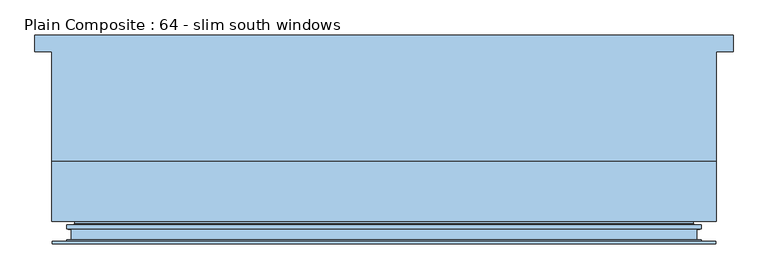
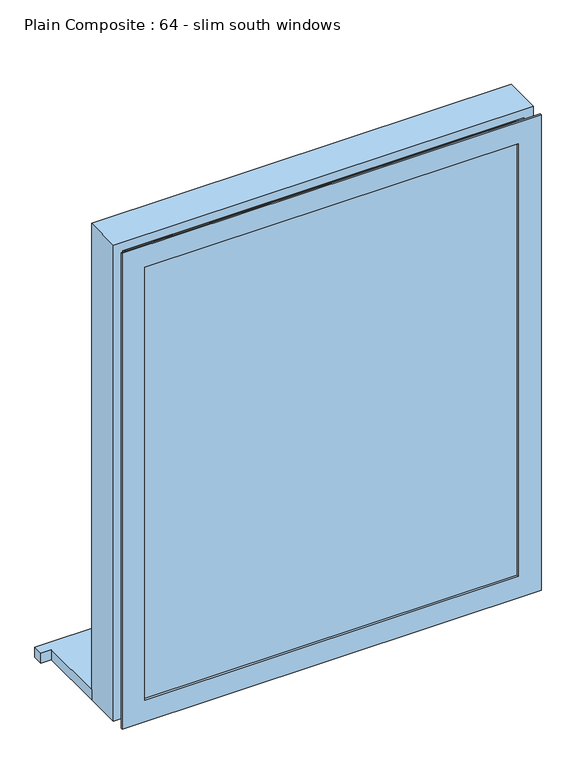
"""IFC4 building model written with IfcOpenShell, lengths in millimetres: window geometry, Plain Composite : 64 - slim south windows."""

from ifc_helpers import new_model, si_unit, frame, origin, place, context, project, spatial, polyline, outline, extrude, faceted_brep, source, transform, mapped, element, save


def plain_composite_64_slim_south_windows_6c7d1eea(model_context):
    return source(origin(), model_context, "Body", "SolidModel", [
        extrude(outline(polyline([(-815.0, 161.5434322), (235.0, 161.5434322), (235.0, 136.5434322), (210.0, 136.5434322), (210.0, -29.4565678), (-790.0, -29.4565678), (-790.0, 136.5434322), (-815.0, 136.5434322), (-815.0, 161.5434322)])), frame((0.0, 0.0, 910.0), z_axis=(0.0, 0.0, 1.0), x_axis=(1.0, 0.0, 0.0)), (0.0, 0.0, 1.0), 25.0),
        extrude(outline(polyline([(167.0, -123.4565678), (167.0, -147.4565678), (-747.0, -147.4565678), (-747.0, -123.4565678), (167.0, -123.4565678)])), frame((0.0, 0.0, 953.0), z_axis=(0.0, 0.0, 1.0), x_axis=(1.0, 0.0, 0.0)), (0.0, 0.0, 1.0), 1114.0),
        faceted_brep([(-735.0, -147.4565678, 965.0), (-735.0, -147.4565678, 2055.0), (-735.0, -153.4565678, 2055.0), (-735.0, -153.4565678, 965.0), (-747.0, -123.4565678, 953.0), (-747.0, -123.4565678, 2067.0), (-747.0, -147.4565678, 2067.0), (-747.0, -147.4565678, 953.0), (-735.0, -100.4565678, 965.0), (-735.0, -100.4565678, 2055.0), (-735.0, -123.4565678, 2055.0), (-735.0, -123.4565678, 965.0), (-757.3761005, -103.766907, 942.6238995), (-757.3761005, -103.766907, 2077.3761005), (-757.3761005, -100.4565678, 2077.3761005), (-757.3761005, -100.4565678, 942.6238995), (-755.3055676, -104.9623297, 944.6944324), (-755.3055676, -104.9623297, 2075.3055676), (-755.3055676, -122.3525929, 944.6944324), (-755.3055676, -122.3525929, 2075.3055676), (-760.0, -127.0470253, 940.0), (-760.0, -127.0470253, 2080.0), (-765.0, -125.0470253, 935.0), (-765.0, -125.0470253, 2085.0), (-765.0, -127.0470253, 2085.0), (-765.0, -127.0470253, 935.0), (-767.0, -131.0470253, 933.0), (-767.0, -131.0470253, 2087.0), (-767.0, -125.0470253, 2087.0), (-767.0, -125.0470253, 933.0), (-765.0, -129.0470253, 935.0), (-765.0, -129.0470253, 2085.0), (-765.0, -131.0470253, 2085.0), (-765.0, -131.0470253, 935.0), (-760.0, -149.4565678, 940.0), (-760.0, -149.4565678, 2080.0), (-760.0, -129.0470253, 2080.0), (-760.0, -129.0470253, 940.0), (-765.0, -147.4565678, 935.0), (-765.0, -147.4565678, 2085.0), (-765.0, -149.4565678, 2085.0), (-765.0, -149.4565678, 935.0), (-767.0, -151.4565678, 933.0), (-767.0, -151.4565678, 2087.0), (-767.0, -147.4565678, 2087.0), (-767.0, -147.4565678, 933.0), (-787.0, -149.4565678, 913.0), (-787.0, -149.4565678, 2107.0), (-787.0, -151.4565678, 2107.0), (-787.0, -151.4565678, 913.0), (-789.0, -153.4565678, 911.0), (-789.0, -153.4565678, 2109.0), (-789.0, -149.4565678, 2109.0), (-789.0, -149.4565678, 911.0), (155.0, -147.4565678, 2055.0), (155.0, -153.4565678, 2055.0), (167.0, -123.4565678, 2067.0), (167.0, -147.4565678, 2067.0), (155.0, -100.4565678, 2055.0), (155.0, -123.4565678, 2055.0), (177.3761005, -103.766907, 2077.3761005), (177.3761005, -100.4565678, 2077.3761005), (175.3055676, -104.9623297, 2075.3055676), (175.3055676, -122.3525929, 2075.3055676), (180.0, -127.0470253, 2080.0), (185.0, -125.0470253, 2085.0), (185.0, -127.0470253, 2085.0), (187.0, -131.0470253, 2087.0), (187.0, -125.0470253, 2087.0), (185.0, -129.0470253, 2085.0), (185.0, -131.0470253, 2085.0), (180.0, -149.4565678, 2080.0), (180.0, -129.0470253, 2080.0), (185.0, -147.4565678, 2085.0), (185.0, -149.4565678, 2085.0), (187.0, -151.4565678, 2087.0), (187.0, -147.4565678, 2087.0), (207.0, -149.4565678, 2107.0), (207.0, -151.4565678, 2107.0), (209.0, -153.4565678, 2109.0), (209.0, -149.4565678, 2109.0), (155.0, -147.4565678, 965.0), (155.0, -153.4565678, 965.0), (167.0, -123.4565678, 953.0), (167.0, -147.4565678, 953.0), (155.0, -100.4565678, 965.0), (155.0, -123.4565678, 965.0), (177.3761005, -103.766907, 942.6238995), (177.3761005, -100.4565678, 942.6238995), (175.3055676, -104.9623297, 944.6944324), (175.3055676, -122.3525929, 944.6944324), (180.0, -127.0470253, 940.0), (185.0, -125.0470253, 935.0), (185.0, -127.0470253, 935.0), (187.0, -131.0470253, 933.0), (187.0, -125.0470253, 933.0), (185.0, -129.0470253, 935.0), (185.0, -131.0470253, 935.0), (180.0, -149.4565678, 940.0), (180.0, -129.0470253, 940.0), (185.0, -147.4565678, 935.0), (185.0, -149.4565678, 935.0), (187.0, -151.4565678, 933.0), (187.0, -147.4565678, 933.0), (207.0, -149.4565678, 913.0), (207.0, -151.4565678, 913.0), (209.0, -153.4565678, 911.0), (209.0, -149.4565678, 911.0)], [[[0, 1, 2, 3]], [[4, 5, 6, 7]], [[8, 9, 10, 11]], [[12, 13, 14, 15]], [[16, 17, 13, 12]], [[18, 19, 17, 16]], [[20, 21, 19, 18]], [[22, 23, 24, 25]], [[26, 27, 28, 29]], [[30, 31, 32, 33]], [[34, 35, 36, 37]], [[38, 39, 40, 41]], [[42, 43, 44, 45]], [[46, 47, 48, 49]], [[50, 51, 52, 53]], [[1, 54, 55, 2]], [[5, 56, 57, 6]], [[9, 58, 59, 10]], [[13, 60, 61, 14]], [[17, 62, 60, 13]], [[19, 63, 62, 17]], [[21, 64, 63, 19]], [[23, 65, 66, 24]], [[27, 67, 68, 28]], [[31, 69, 70, 32]], [[35, 71, 72, 36]], [[39, 73, 74, 40]], [[43, 75, 76, 44]], [[47, 77, 78, 48]], [[51, 79, 80, 52]], [[54, 81, 82, 55]], [[56, 83, 84, 57]], [[58, 85, 86, 59]], [[60, 87, 88, 61]], [[62, 89, 87, 60]], [[63, 90, 89, 62]], [[64, 91, 90, 63]], [[65, 92, 93, 66]], [[67, 94, 95, 68]], [[69, 96, 97, 70]], [[71, 98, 99, 72]], [[73, 100, 101, 74]], [[75, 102, 103, 76]], [[77, 104, 105, 78]], [[79, 106, 107, 80]], [[51, 50, 106, 79], [3, 2, 55, 82]], [[81, 0, 3, 82]], [[7, 6, 57, 84], [1, 0, 81, 54]], [[83, 4, 7, 84]], [[5, 4, 83, 56], [11, 10, 59, 86]], [[85, 8, 11, 86]], [[15, 14, 61, 88], [9, 8, 85, 58]], [[87, 12, 15, 88]], [[89, 16, 12, 87]], [[90, 18, 16, 89]], [[91, 20, 18, 90]], [[25, 24, 66, 93], [21, 20, 91, 64]], [[92, 22, 25, 93]], [[29, 28, 68, 95], [23, 22, 92, 65]], [[94, 26, 29, 95]], [[27, 26, 94, 67], [33, 32, 70, 97]], [[96, 30, 33, 97]], [[31, 30, 96, 69], [37, 36, 72, 99]], [[98, 34, 37, 99]], [[41, 40, 74, 101], [35, 34, 98, 71]], [[100, 38, 41, 101]], [[45, 44, 76, 103], [39, 38, 100, 73]], [[102, 42, 45, 103]], [[49, 48, 78, 105], [43, 42, 102, 75]], [[104, 46, 49, 105]], [[53, 52, 80, 107], [47, 46, 104, 77]], [[106, 50, 53, 107]]]),
        faceted_brep([(-790.0, -119.4565678, 910.0), (-790.0, -119.4565678, 2110.0), (-790.0, -29.4565678, 2110.0), (-790.0, -29.4565678, 910.0), (-765.0, -99.4565678, 935.0), (-765.0, -99.4565678, 2085.0), (-767.8108167, -119.4565678, 2087.8108167), (-767.8108167, -119.4565678, 932.1891833), (-740.0, -29.4565678, 960.0), (-740.0, -29.4565678, 2060.0), (-740.0, -99.4565678, 2060.0), (-740.0, -99.4565678, 960.0), (210.0, -119.4565678, 2110.0), (210.0, -29.4565678, 2110.0), (185.0, -99.4565678, 2085.0), (187.8108167, -119.4565678, 2087.8108167), (160.0, -29.4565678, 2060.0), (160.0, -99.4565678, 2060.0), (210.0, -119.4565678, 910.0), (210.0, -29.4565678, 910.0), (185.0, -99.4565678, 935.0), (187.8108167, -119.4565678, 932.1891833), (160.0, -29.4565678, 960.0), (160.0, -99.4565678, 960.0)], [[[0, 1, 2, 3]], [[4, 5, 6, 7]], [[8, 9, 10, 11]], [[1, 12, 13, 2]], [[5, 14, 15, 6]], [[9, 16, 17, 10]], [[12, 18, 19, 13]], [[14, 20, 21, 15]], [[16, 22, 23, 17]], [[3, 2, 13, 19], [9, 8, 22, 16]], [[18, 0, 3, 19]], [[1, 0, 18, 12], [7, 6, 15, 21]], [[20, 4, 7, 21]], [[5, 4, 20, 14], [11, 10, 17, 23]], [[22, 8, 11, 23]]]),
    ])


if __name__ == "__main__":
    model = new_model("IFC4")
    model_context = context("Model", 3, world=origin())
    ifc_project = project(units=[si_unit("LENGTHUNIT", "METRE", prefix="MILLI")], contexts=[model_context])
    site = spatial("IfcSite", under=ifc_project)
    building = spatial("IfcBuilding", under=site)
    placement = place(None, origin())
    plain_composite_64_slim_south_windows_shape = plain_composite_64_slim_south_windows_6c7d1eea(model_context)
    element("IfcWindow", 1, ObjectType="Plain Composite : 64 - slim south windows", at=placement, inside=building, context=model_context, shape_type="MappedRepresentation", body=[
        mapped(plain_composite_64_slim_south_windows_shape, transform((0.0, 0.0, 0.0), x_axis=(1.0, 0.0, 0.0), y_axis=(0.0, 1.0, 0.0), z_axis=(0.0, 0.0, 1.0))),
    ])
    save(model, "model.ifc")
